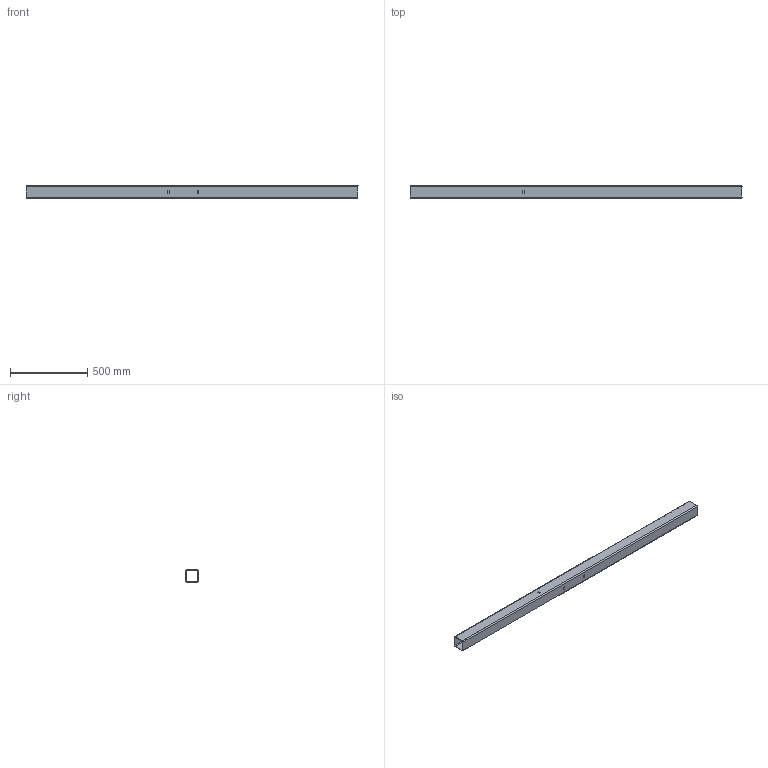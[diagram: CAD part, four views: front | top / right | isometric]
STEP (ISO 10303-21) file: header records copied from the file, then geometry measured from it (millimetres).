
FILE_DESCRIPTION(/* description */ (''),/* implementation_level */ '2;1');
FILE_NAME(/* name */ 'Pos166-Koker Profiel 80x80x5 EN 10210-2-S235JRH-3st',/* time_stamp */ '2024-08-06T13:37:45+02:00',/* author */ (''),/* organization */ (''),/* preprocessor_version */ 'ST-DEVELOPER v16.5',/* originating_system */ 'HiCAD 2024 2901.2 Build 361',/* authorisation */ '');
FILE_SCHEMA (('AUTOMOTIVE_DESIGN { 1 0 10303 214 1 1 1 1 }'));
Length unit declared in the file: millimetre
Products named in the file (1): Pos166-Koker Profiel 80x80x5 EN 10210-2-S235JRH-3st
Bounding box: 2152.79 x 80 x 80 mm (x, y, z)
Volume: 3160428.5 mm3; surface area: 1246946.2 mm2
Topology: 1 solids, 1 shells, 46 faces, 136 edges, 92 vertices
Faces by surface type: plane 34, cylinder 12
Full cylindrical faces by diameter (mm): 16.2 x2, 22 x2
Entity records: 2822 total; most frequent: CARTESIAN_POINT 262, PRESENTATION_STYLE_ASSIGNMENT 257, COLOUR_RGB 257, DRAUGHTING_PRE_DEFINED_CURVE_FONT 256, CURVE_STYLE 256, OVER_RIDING_STYLED_ITEM 256, ORIENTED_EDGE 256, DIRECTION 244
